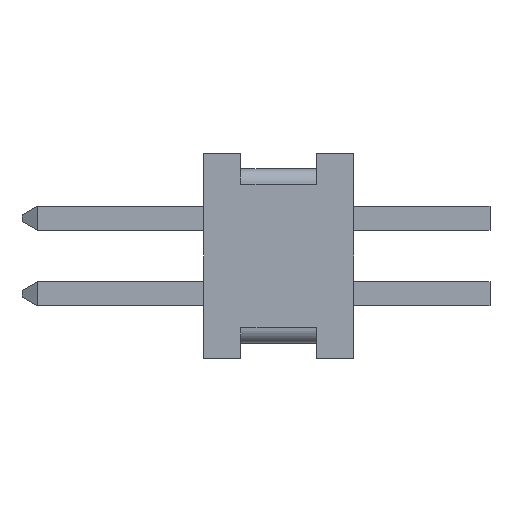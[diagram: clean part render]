
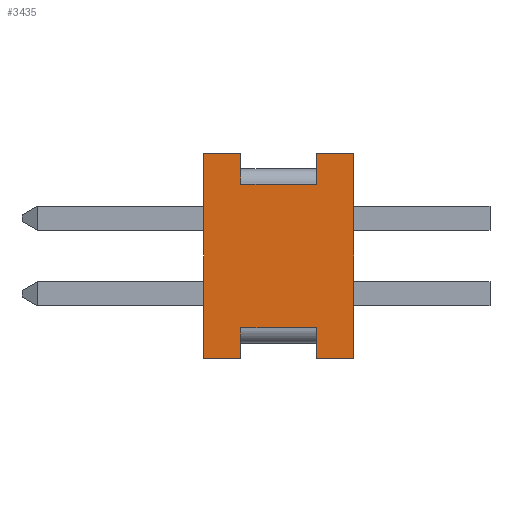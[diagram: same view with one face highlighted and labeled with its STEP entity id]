
A CAD part, left-side view. The second image highlights one B-rep face of the part: STEP entity #3435.
In plain terms, the highlighted planar face has unit normal (-1, 0, 0).
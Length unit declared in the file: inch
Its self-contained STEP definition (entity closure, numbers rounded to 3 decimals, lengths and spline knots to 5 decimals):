
#28 = ORIENTED_EDGE ( 'NONE', *, *, #1748, .T. ) ;
#65 = VERTEX_POINT ( 'NONE', #3134 ) ;
#86 = EDGE_CURVE ( 'NONE', #3820, #2929, #3545, .T. ) ;
#105 = VECTOR ( 'NONE', #3013, 39.37008 ) ;
#224 = ORIENTED_EDGE ( 'NONE', *, *, #2216, .T. ) ;
#263 = CARTESIAN_POINT ( 'NONE',  ( -0.05, 0.0245, -0.0675 ) ) ;
#290 = ORIENTED_EDGE ( 'NONE', *, *, #3849, .T. ) ;
#348 = EDGE_CURVE ( 'NONE', #65, #891, #2876, .T. ) ;
#351 = LINE ( 'NONE', #2066, #1784 ) ;
#424 = DIRECTION ( 'NONE',  ( 0., -1., 0. ) ) ;
#429 = CARTESIAN_POINT ( 'NONE',  ( -0.05, 0.099, 0.0675 ) ) ;
#514 = VECTOR ( 'NONE', #1002, 39.37008 ) ;
#561 = CARTESIAN_POINT ( 'NONE',  ( -0.05, 0.0245, -0.0475 ) ) ;
#571 = CARTESIAN_POINT ( 'NONE',  ( -0.05, 0.0745, 0.0475 ) ) ;
#607 = CARTESIAN_POINT ( 'NONE',  ( -0.05, 0.0245, 0.0675 ) ) ;
#721 = VERTEX_POINT ( 'NONE', #571 ) ;
#753 = EDGE_LOOP ( 'NONE', ( #3276, #224, #968, #1390, #3610, #2903, #290, #893, #2731, #28, #2612, #2879 ) ) ;
#755 = PLANE ( 'NONE',  #2679 ) ;
#794 = CARTESIAN_POINT ( 'NONE',  ( -0.05, 0.0245, -0.0675 ) ) ;
#820 = CARTESIAN_POINT ( 'NONE',  ( -0.05, 0.099, -0.0675 ) ) ;
#891 = VERTEX_POINT ( 'NONE', #3522 ) ;
#893 = ORIENTED_EDGE ( 'NONE', *, *, #3883, .T. ) ;
#901 = DIRECTION ( 'NONE',  ( 0., 0., 1. ) ) ;
#963 = DIRECTION ( 'NONE',  ( 0., -1., 0. ) ) ;
#968 = ORIENTED_EDGE ( 'NONE', *, *, #348, .F. ) ;
#977 = DIRECTION ( 'NONE',  ( 0., 1., 0. ) ) ;
#1002 = DIRECTION ( 'NONE',  ( 0., 0., 1. ) ) ;
#1005 = CARTESIAN_POINT ( 'NONE',  ( -0.05, 0.0745, -0.0675 ) ) ;
#1231 = VERTEX_POINT ( 'NONE', #607 ) ;
#1232 = VECTOR ( 'NONE', #3841, 39.37008 ) ;
#1244 = VERTEX_POINT ( 'NONE', #3664 ) ;
#1292 = FACE_OUTER_BOUND ( 'NONE', #753, .T. ) ;
#1324 = CARTESIAN_POINT ( 'NONE',  ( -0.05, 0.099, -0.0675 ) ) ;
#1353 = EDGE_CURVE ( 'NONE', #1231, #1244, #2380, .T. ) ;
#1361 = LINE ( 'NONE', #4020, #3818 ) ;
#1390 = ORIENTED_EDGE ( 'NONE', *, *, #3540, .F. ) ;
#1517 = VERTEX_POINT ( 'NONE', #561 ) ;
#1547 = CARTESIAN_POINT ( 'NONE',  ( -0.05, 0.0245, 0.0675 ) ) ;
#1593 = VECTOR ( 'NONE', #977, 39.37008 ) ;
#1617 = CARTESIAN_POINT ( 'NONE',  ( -0.05, 0., 0.0675 ) ) ;
#1656 = DIRECTION ( 'NONE',  ( 1., 0., 0. ) ) ;
#1697 = LINE ( 'NONE', #2464, #1593 ) ;
#1702 = VECTOR ( 'NONE', #1715, 39.37008 ) ;
#1715 = DIRECTION ( 'NONE',  ( 0., -1., 0. ) ) ;
#1748 = EDGE_CURVE ( 'NONE', #3859, #2212, #3379, .T. ) ;
#1784 = VECTOR ( 'NONE', #3611, 39.37008 ) ;
#1788 = VECTOR ( 'NONE', #2198, 39.37008 ) ;
#1868 = CARTESIAN_POINT ( 'NONE',  ( -0.05, 0.099, -0.0675 ) ) ;
#1882 = LINE ( 'NONE', #2874, #1788 ) ;
#2066 = CARTESIAN_POINT ( 'NONE',  ( -0.05, 0.099, 0.0675 ) ) ;
#2111 = DIRECTION ( 'NONE',  ( 0., -1., 0. ) ) ;
#2144 = VECTOR ( 'NONE', #3228, 39.37008 ) ;
#2184 = VECTOR ( 'NONE', #963, 39.37008 ) ;
#2198 = DIRECTION ( 'NONE',  ( 0., 0., 1. ) ) ;
#2212 = VERTEX_POINT ( 'NONE', #3095 ) ;
#2216 = EDGE_CURVE ( 'NONE', #721, #891, #1361, .T. ) ;
#2304 = CARTESIAN_POINT ( 'NONE',  ( -0.05, 0.099, -0.0475 ) ) ;
#2380 = LINE ( 'NONE', #1547, #1232 ) ;
#2464 = CARTESIAN_POINT ( 'NONE',  ( -0.05, 0.099, 0.0475 ) ) ;
#2529 = EDGE_CURVE ( 'NONE', #1231, #2212, #2652, .T. ) ;
#2612 = ORIENTED_EDGE ( 'NONE', *, *, #2529, .F. ) ;
#2616 = VERTEX_POINT ( 'NONE', #3052 ) ;
#2652 = LINE ( 'NONE', #3899, #1702 ) ;
#2653 = EDGE_CURVE ( 'NONE', #1244, #721, #1697, .T. ) ;
#2679 = AXIS2_PLACEMENT_3D ( 'NONE', #429, #1656, #2927 ) ;
#2731 = ORIENTED_EDGE ( 'NONE', *, *, #3679, .T. ) ;
#2798 = LINE ( 'NONE', #794, #2144 ) ;
#2874 = CARTESIAN_POINT ( 'NONE',  ( -0.05, 0.0745, -0.0675 ) ) ;
#2876 = LINE ( 'NONE', #3057, #3644 ) ;
#2879 = ORIENTED_EDGE ( 'NONE', *, *, #1353, .T. ) ;
#2903 = ORIENTED_EDGE ( 'NONE', *, *, #3386, .T. ) ;
#2927 = DIRECTION ( 'NONE',  ( 0., 0., -1. ) ) ;
#2929 = VERTEX_POINT ( 'NONE', #1005 ) ;
#3013 = DIRECTION ( 'NONE',  ( 0., -1., 0. ) ) ;
#3052 = CARTESIAN_POINT ( 'NONE',  ( -0.05, 0.0745, -0.0475 ) ) ;
#3057 = CARTESIAN_POINT ( 'NONE',  ( -0.05, 0.099, 0.0675 ) ) ;
#3095 = CARTESIAN_POINT ( 'NONE',  ( -0.05, 0., 0.0675 ) ) ;
#3125 = LINE ( 'NONE', #820, #105 ) ;
#3134 = CARTESIAN_POINT ( 'NONE',  ( -0.05, 0.099, 0.0675 ) ) ;
#3171 = LINE ( 'NONE', #2304, #3656 ) ;
#3228 = DIRECTION ( 'NONE',  ( 0., 0., -1. ) ) ;
#3266 = CARTESIAN_POINT ( 'NONE',  ( -0.05, 0., -0.0675 ) ) ;
#3276 = ORIENTED_EDGE ( 'NONE', *, *, #2653, .T. ) ;
#3379 = LINE ( 'NONE', #1617, #514 ) ;
#3386 = EDGE_CURVE ( 'NONE', #2929, #2616, #1882, .T. ) ;
#3435 = ADVANCED_FACE ( 'NONE', ( #1292 ), #755, .F. ) ;
#3522 = CARTESIAN_POINT ( 'NONE',  ( -0.05, 0.0745, 0.0675 ) ) ;
#3540 = EDGE_CURVE ( 'NONE', #3820, #65, #351, .T. ) ;
#3545 = LINE ( 'NONE', #1868, #2184 ) ;
#3610 = ORIENTED_EDGE ( 'NONE', *, *, #86, .T. ) ;
#3611 = DIRECTION ( 'NONE',  ( 0., 0., 1. ) ) ;
#3644 = VECTOR ( 'NONE', #2111, 39.37008 ) ;
#3656 = VECTOR ( 'NONE', #424, 39.37008 ) ;
#3664 = CARTESIAN_POINT ( 'NONE',  ( -0.05, 0.0245, 0.0475 ) ) ;
#3679 = EDGE_CURVE ( 'NONE', #3769, #3859, #3125, .T. ) ;
#3769 = VERTEX_POINT ( 'NONE', #263 ) ;
#3818 = VECTOR ( 'NONE', #901, 39.37008 ) ;
#3820 = VERTEX_POINT ( 'NONE', #1324 ) ;
#3841 = DIRECTION ( 'NONE',  ( 0., 0., -1. ) ) ;
#3849 = EDGE_CURVE ( 'NONE', #2616, #1517, #3171, .T. ) ;
#3859 = VERTEX_POINT ( 'NONE', #3266 ) ;
#3883 = EDGE_CURVE ( 'NONE', #1517, #3769, #2798, .T. ) ;
#3899 = CARTESIAN_POINT ( 'NONE',  ( -0.05, 0.099, 0.0675 ) ) ;
#4020 = CARTESIAN_POINT ( 'NONE',  ( -0.05, 0.0745, 0.0675 ) ) ;
